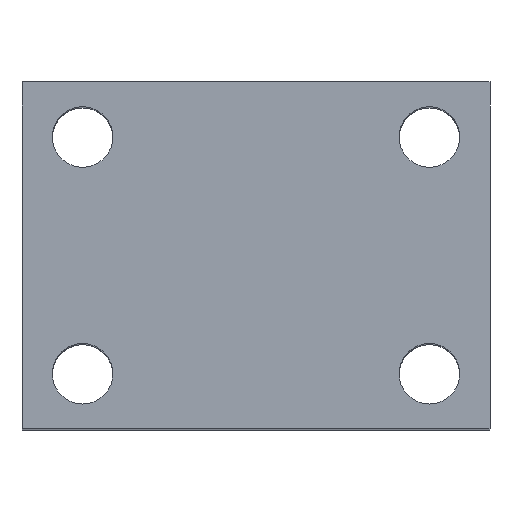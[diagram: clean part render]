
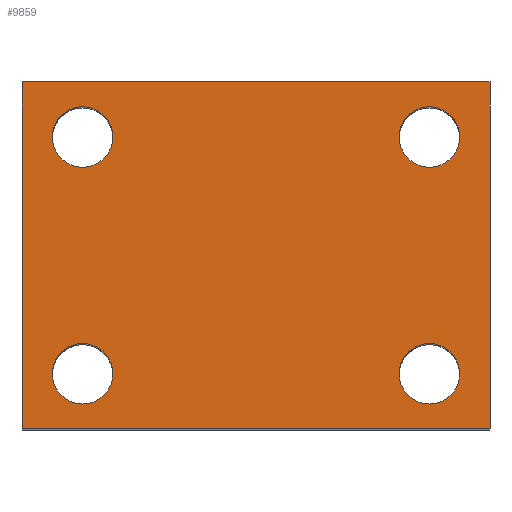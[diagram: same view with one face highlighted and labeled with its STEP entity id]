
A CAD part, top view. The second image highlights one B-rep face of the part: STEP entity #9859.
In plain terms, the highlighted planar face has unit normal (0, 0, 1).
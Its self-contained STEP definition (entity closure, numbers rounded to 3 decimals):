
#120 = DIRECTION ( 'NONE',  ( 0., 0., -1. ) ) ;
#154 = CARTESIAN_POINT ( 'NONE',  ( 26., 10., 47.5 ) ) ;
#238 = DIRECTION ( 'NONE',  ( 1., 0., 0. ) ) ;
#312 = ORIENTED_EDGE ( 'NONE', *, *, #658, .T. ) ;
#485 = LINE ( 'NONE', #1110, #7195 ) ;
#570 = FACE_BOUND ( 'NONE', #17179, .T. ) ;
#658 = EDGE_CURVE ( 'NONE', #8573, #13844, #16763, .T. ) ;
#762 = VERTEX_POINT ( 'NONE', #9526 ) ;
#837 = CARTESIAN_POINT ( 'NONE',  ( -42.5, 63., 47.5 ) ) ;
#912 = EDGE_CURVE ( 'NONE', #11272, #9881, #8329, .T. ) ;
#1043 = EDGE_CURVE ( 'NONE', #1200, #5231, #7082, .T. ) ;
#1057 = DIRECTION ( 'NONE',  ( -1., 0., 0. ) ) ;
#1110 = CARTESIAN_POINT ( 'NONE',  ( 42.5, 63., 47.5 ) ) ;
#1200 = VERTEX_POINT ( 'NONE', #3729 ) ;
#1304 = CARTESIAN_POINT ( 'NONE',  ( -31.5, 10., 47.5 ) ) ;
#1323 = ORIENTED_EDGE ( 'NONE', *, *, #2458, .T. ) ;
#1546 = DIRECTION ( 'NONE',  ( 0., -1., 0. ) ) ;
#1733 = CARTESIAN_POINT ( 'NONE',  ( -42.5, 0., 47.5 ) ) ;
#1964 = DIRECTION ( 'NONE',  ( -1., 0., 0. ) ) ;
#2021 = DIRECTION ( 'NONE',  ( 0., 0., -1. ) ) ;
#2157 = VERTEX_POINT ( 'NONE', #7384 ) ;
#2209 = EDGE_CURVE ( 'NONE', #15865, #762, #7662, .T. ) ;
#2458 = EDGE_CURVE ( 'NONE', #9881, #11272, #2818, .T. ) ;
#2697 = VECTOR ( 'NONE', #9780, 1000. ) ;
#2775 = CIRCLE ( 'NONE', #10269, 5.5 ) ;
#2792 = ORIENTED_EDGE ( 'NONE', *, *, #6254, .T. ) ;
#2818 = CIRCLE ( 'NONE', #4343, 5.5 ) ;
#2959 = ORIENTED_EDGE ( 'NONE', *, *, #9657, .T. ) ;
#3122 = CARTESIAN_POINT ( 'NONE',  ( 31.5, 53., 47.5 ) ) ;
#3128 = ORIENTED_EDGE ( 'NONE', *, *, #17313, .T. ) ;
#3208 = VERTEX_POINT ( 'NONE', #13537 ) ;
#3382 = DIRECTION ( 'NONE',  ( 0., 0., -1. ) ) ;
#3557 = AXIS2_PLACEMENT_3D ( 'NONE', #1304, #8357, #9907 ) ;
#3661 = EDGE_CURVE ( 'NONE', #5231, #3208, #485, .T. ) ;
#3729 = CARTESIAN_POINT ( 'NONE',  ( -42.5, 63., 47.5 ) ) ;
#3739 = DIRECTION ( 'NONE',  ( -1., 0., 0. ) ) ;
#3914 = CARTESIAN_POINT ( 'NONE',  ( -37., 10., 47.5 ) ) ;
#4343 = AXIS2_PLACEMENT_3D ( 'NONE', #14642, #6609, #16034 ) ;
#4483 = CARTESIAN_POINT ( 'NONE',  ( -37., 53., 47.5 ) ) ;
#4559 = AXIS2_PLACEMENT_3D ( 'NONE', #12983, #5004, #14338 ) ;
#5004 = DIRECTION ( 'NONE',  ( 0., 0., -1. ) ) ;
#5231 = VERTEX_POINT ( 'NONE', #14441 ) ;
#5234 = ORIENTED_EDGE ( 'NONE', *, *, #3661, .F. ) ;
#6163 = DIRECTION ( 'NONE',  ( 0., 0., -1. ) ) ;
#6254 = EDGE_CURVE ( 'NONE', #762, #15865, #2775, .T. ) ;
#6488 = ORIENTED_EDGE ( 'NONE', *, *, #14614, .T. ) ;
#6609 = DIRECTION ( 'NONE',  ( 0., 0., -1. ) ) ;
#6796 = CARTESIAN_POINT ( 'NONE',  ( -42.5, 63., 47.5 ) ) ;
#7082 = LINE ( 'NONE', #837, #17375 ) ;
#7195 = VECTOR ( 'NONE', #11779, 1000. ) ;
#7272 = FACE_BOUND ( 'NONE', #15699, .T. ) ;
#7384 = CARTESIAN_POINT ( 'NONE',  ( -42.5, 0., 47.5 ) ) ;
#7662 = CIRCLE ( 'NONE', #16371, 5.5 ) ;
#7668 = ORIENTED_EDGE ( 'NONE', *, *, #15300, .T. ) ;
#8163 = CARTESIAN_POINT ( 'NONE',  ( -31.5, 53., 47.5 ) ) ;
#8256 = VECTOR ( 'NONE', #1546, 1000. ) ;
#8286 = CIRCLE ( 'NONE', #12646, 5.5 ) ;
#8329 = CIRCLE ( 'NONE', #8868, 5.5 ) ;
#8357 = DIRECTION ( 'NONE',  ( 0., 0., -1. ) ) ;
#8555 = EDGE_LOOP ( 'NONE', ( #16369, #2792 ) ) ;
#8573 = VERTEX_POINT ( 'NONE', #3914 ) ;
#8868 = AXIS2_PLACEMENT_3D ( 'NONE', #3122, #2021, #1964 ) ;
#9003 = CARTESIAN_POINT ( 'NONE',  ( -42.5, 63., 47.5 ) ) ;
#9060 = DIRECTION ( 'NONE',  ( 0., 0., -1. ) ) ;
#9502 = DIRECTION ( 'NONE',  ( -1., 0., 0. ) ) ;
#9526 = CARTESIAN_POINT ( 'NONE',  ( 37., 10., 47.5 ) ) ;
#9601 = CARTESIAN_POINT ( 'NONE',  ( -26., 53., 47.5 ) ) ;
#9657 = EDGE_CURVE ( 'NONE', #2157, #3208, #13333, .T. ) ;
#9780 = DIRECTION ( 'NONE',  ( 1., 0., 0. ) ) ;
#9805 = ORIENTED_EDGE ( 'NONE', *, *, #912, .T. ) ;
#9859 = ADVANCED_FACE ( 'NONE', ( #14389, #570, #10803, #7272, #11237 ), #10344, .F. ) ;
#9881 = VERTEX_POINT ( 'NONE', #15725 ) ;
#9907 = DIRECTION ( 'NONE',  ( -1., 0., 0. ) ) ;
#10037 = EDGE_LOOP ( 'NONE', ( #7668, #3128 ) ) ;
#10155 = VERTEX_POINT ( 'NONE', #4483 ) ;
#10269 = AXIS2_PLACEMENT_3D ( 'NONE', #17143, #9060, #1057 ) ;
#10344 = PLANE ( 'NONE',  #10618 ) ;
#10618 = AXIS2_PLACEMENT_3D ( 'NONE', #9003, #11671, #3739 ) ;
#10803 = FACE_BOUND ( 'NONE', #8555, .T. ) ;
#11061 = EDGE_CURVE ( 'NONE', #13844, #8573, #8286, .T. ) ;
#11237 = FACE_OUTER_BOUND ( 'NONE', #17163, .T. ) ;
#11272 = VERTEX_POINT ( 'NONE', #12186 ) ;
#11333 = CARTESIAN_POINT ( 'NONE',  ( -31.5, 10., 47.5 ) ) ;
#11671 = DIRECTION ( 'NONE',  ( 0., 0., -1. ) ) ;
#11779 = DIRECTION ( 'NONE',  ( 0., -1., 0. ) ) ;
#12186 = CARTESIAN_POINT ( 'NONE',  ( 26., 53., 47.5 ) ) ;
#12646 = AXIS2_PLACEMENT_3D ( 'NONE', #11333, #3382, #12679 ) ;
#12679 = DIRECTION ( 'NONE',  ( -1., 0., 0. ) ) ;
#12797 = CIRCLE ( 'NONE', #4559, 5.5 ) ;
#12983 = CARTESIAN_POINT ( 'NONE',  ( -31.5, 53., 47.5 ) ) ;
#13333 = LINE ( 'NONE', #1733, #2697 ) ;
#13537 = CARTESIAN_POINT ( 'NONE',  ( 42.5, 0., 47.5 ) ) ;
#13844 = VERTEX_POINT ( 'NONE', #15237 ) ;
#13924 = AXIS2_PLACEMENT_3D ( 'NONE', #8163, #120, #9502 ) ;
#14125 = LINE ( 'NONE', #6796, #8256 ) ;
#14179 = CARTESIAN_POINT ( 'NONE',  ( 31.5, 10., 47.5 ) ) ;
#14338 = DIRECTION ( 'NONE',  ( -1., 0., 0. ) ) ;
#14389 = FACE_BOUND ( 'NONE', #10037, .T. ) ;
#14441 = CARTESIAN_POINT ( 'NONE',  ( 42.5, 63., 47.5 ) ) ;
#14614 = EDGE_CURVE ( 'NONE', #1200, #2157, #14125, .T. ) ;
#14642 = CARTESIAN_POINT ( 'NONE',  ( 31.5, 53., 47.5 ) ) ;
#14681 = VERTEX_POINT ( 'NONE', #9601 ) ;
#15237 = CARTESIAN_POINT ( 'NONE',  ( -26., 10., 47.5 ) ) ;
#15300 = EDGE_CURVE ( 'NONE', #10155, #14681, #15824, .T. ) ;
#15454 = ORIENTED_EDGE ( 'NONE', *, *, #11061, .T. ) ;
#15574 = DIRECTION ( 'NONE',  ( -1., 0., 0. ) ) ;
#15699 = EDGE_LOOP ( 'NONE', ( #9805, #1323 ) ) ;
#15725 = CARTESIAN_POINT ( 'NONE',  ( 37., 53., 47.5 ) ) ;
#15824 = CIRCLE ( 'NONE', #13924, 5.5 ) ;
#15865 = VERTEX_POINT ( 'NONE', #154 ) ;
#16034 = DIRECTION ( 'NONE',  ( -1., 0., 0. ) ) ;
#16285 = ORIENTED_EDGE ( 'NONE', *, *, #1043, .F. ) ;
#16369 = ORIENTED_EDGE ( 'NONE', *, *, #2209, .T. ) ;
#16371 = AXIS2_PLACEMENT_3D ( 'NONE', #14179, #6163, #15574 ) ;
#16763 = CIRCLE ( 'NONE', #3557, 5.5 ) ;
#17143 = CARTESIAN_POINT ( 'NONE',  ( 31.5, 10., 47.5 ) ) ;
#17163 = EDGE_LOOP ( 'NONE', ( #2959, #5234, #16285, #6488 ) ) ;
#17179 = EDGE_LOOP ( 'NONE', ( #312, #15454 ) ) ;
#17313 = EDGE_CURVE ( 'NONE', #14681, #10155, #12797, .T. ) ;
#17375 = VECTOR ( 'NONE', #238, 1000. ) ;
